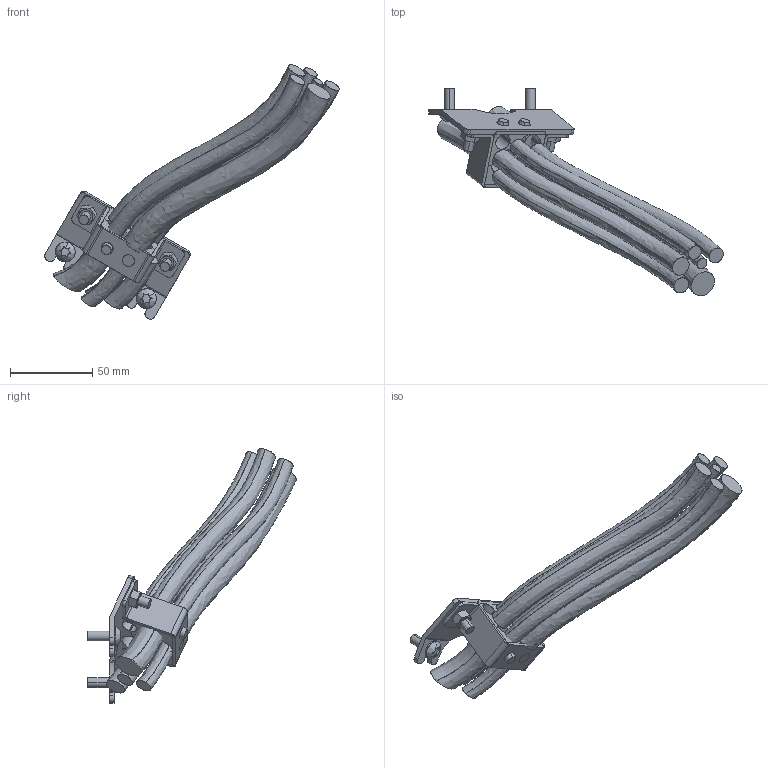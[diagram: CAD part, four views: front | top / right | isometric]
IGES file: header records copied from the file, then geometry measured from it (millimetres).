
Start section: SolidWorks IGES file using analytic representation for surfaces
Global section: file name: C:\Data\Lättmodeller\Nytt\2600\IRB2600\IRB2600_20-165_IRC5_rev00\IRB2600_20-165_IRC5_rev00_IRC5_IGES_j\IRB2600_20-165_CABLES_LINK1b_rev00.IGS; native system: SolidWorks 2014; preprocessor: SolidWorks 2014; author: seadbov; date: 161202.125246; units: millimetre
Bounding box: 179.51 x 126.87 x 155.12 mm (x, y, z)
Surface area: 63748.2 mm2 (no closed solid volume)
Topology: 0 solids, 0 shells, 245 faces, 4457 edges, 4457 vertices
Faces by surface type: bspline 133, revolution 112
